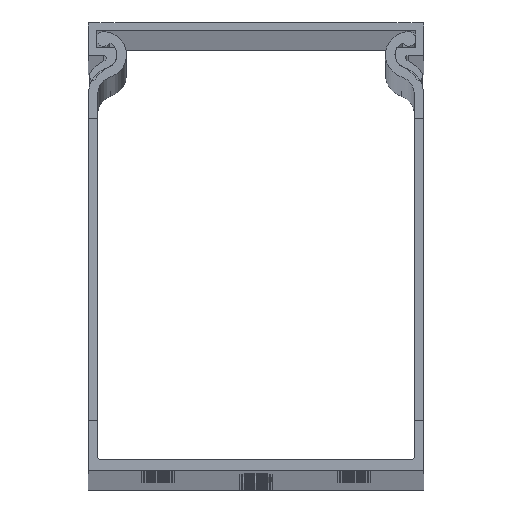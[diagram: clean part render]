
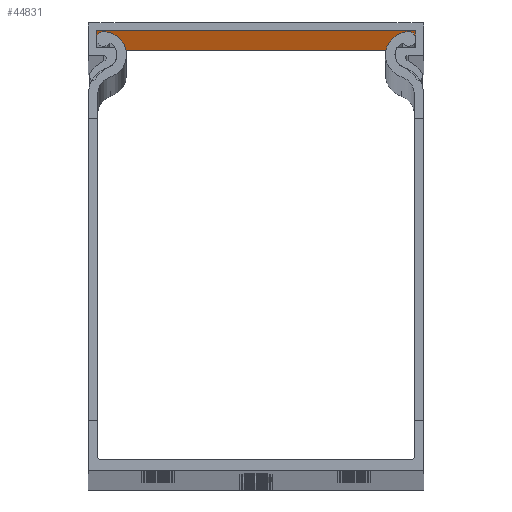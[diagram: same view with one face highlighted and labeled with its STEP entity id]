
A CAD part, top view. The second image highlights one B-rep face of the part: STEP entity #44831.
In plain terms, the highlighted planar face has unit normal (0, -1, 0).
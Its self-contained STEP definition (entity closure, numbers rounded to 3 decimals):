
#101 = EDGE_LOOP ( 'NONE', ( #40373, #2779, #48376, #43704 ) ) ;
#371 = PLANE ( 'NONE',  #23980 ) ;
#540 = CARTESIAN_POINT ( 'NONE',  ( 2540.007, 1295.656, 2000. ) ) ;
#1241 = EDGE_CURVE ( 'NONE', #39609, #8853, #20241, .T. ) ;
#1750 = LINE ( 'NONE', #9429, #51058 ) ;
#2779 = ORIENTED_EDGE ( 'NONE', *, *, #3643, .F. ) ;
#3643 = EDGE_CURVE ( 'NONE', #26668, #29384, #18615, .T. ) ;
#4461 = LINE ( 'NONE', #11412, #7830 ) ;
#5773 = CARTESIAN_POINT ( 'NONE',  ( 2596.807, 1295.656, 2000. ) ) ;
#7830 = VECTOR ( 'NONE', #46882, 1000. ) ;
#8853 = VERTEX_POINT ( 'NONE', #23030 ) ;
#9063 = DIRECTION ( 'NONE',  ( 1., 0., 0. ) ) ;
#9429 = CARTESIAN_POINT ( 'NONE',  ( 2568.407, 1295.656, 0. ) ) ;
#11331 = VECTOR ( 'NONE', #44537, 1000. ) ;
#11412 = CARTESIAN_POINT ( 'NONE',  ( 2568.407, 1295.656, 2000. ) ) ;
#12643 = FACE_OUTER_BOUND ( 'NONE', #101, .T. ) ;
#15350 = CARTESIAN_POINT ( 'NONE',  ( 2596.807, 1295.656, 2000. ) ) ;
#17178 = DIRECTION ( 'NONE',  ( 0., 1., 0. ) ) ;
#18615 = LINE ( 'NONE', #15350, #21295 ) ;
#19868 = EDGE_CURVE ( 'NONE', #39609, #26668, #4461, .T. ) ;
#20241 = LINE ( 'NONE', #22725, #11331 ) ;
#21295 = VECTOR ( 'NONE', #24371, 1000. ) ;
#22725 = CARTESIAN_POINT ( 'NONE',  ( 2540.007, 1295.656, 2000. ) ) ;
#23030 = CARTESIAN_POINT ( 'NONE',  ( 2540.007, 1295.656, 0. ) ) ;
#23980 = AXIS2_PLACEMENT_3D ( 'NONE', #35328, #17178, #26577 ) ;
#24371 = DIRECTION ( 'NONE',  ( 0., 0., -1. ) ) ;
#26577 = DIRECTION ( 'NONE',  ( 0., 0., 1. ) ) ;
#26668 = VERTEX_POINT ( 'NONE', #5773 ) ;
#29384 = VERTEX_POINT ( 'NONE', #50853 ) ;
#35328 = CARTESIAN_POINT ( 'NONE',  ( 2568.407, 1295.656, 2000. ) ) ;
#39609 = VERTEX_POINT ( 'NONE', #540 ) ;
#40373 = ORIENTED_EDGE ( 'NONE', *, *, #56682, .T. ) ;
#43704 = ORIENTED_EDGE ( 'NONE', *, *, #1241, .T. ) ;
#44537 = DIRECTION ( 'NONE',  ( 0., 0., -1. ) ) ;
#44831 = ADVANCED_FACE ( 'NONE', ( #12643 ), #371, .F. ) ;
#46882 = DIRECTION ( 'NONE',  ( 1., 0., 0. ) ) ;
#48376 = ORIENTED_EDGE ( 'NONE', *, *, #19868, .F. ) ;
#50853 = CARTESIAN_POINT ( 'NONE',  ( 2596.807, 1295.656, 0. ) ) ;
#51058 = VECTOR ( 'NONE', #9063, 1000. ) ;
#56682 = EDGE_CURVE ( 'NONE', #8853, #29384, #1750, .T. ) ;
